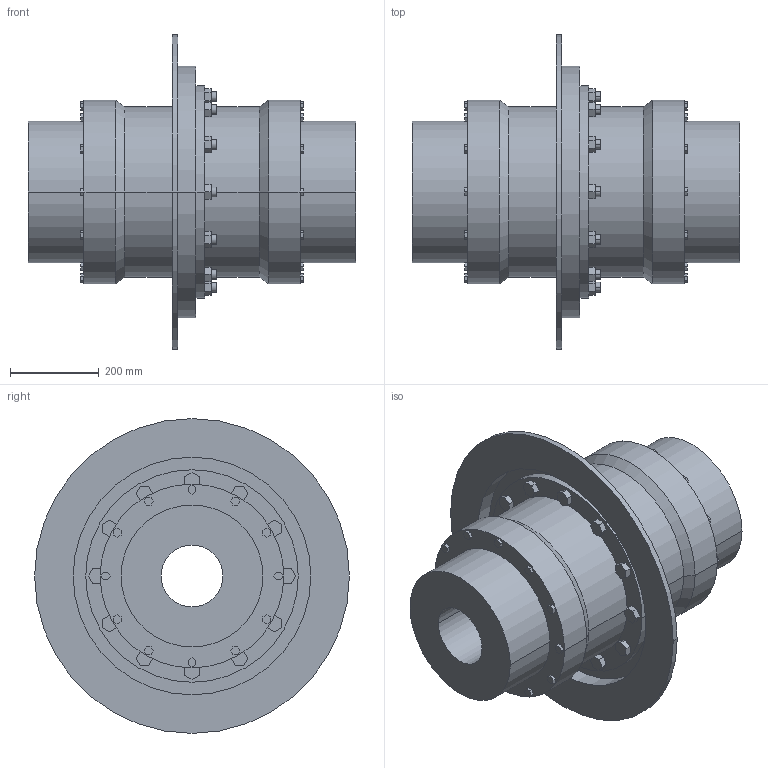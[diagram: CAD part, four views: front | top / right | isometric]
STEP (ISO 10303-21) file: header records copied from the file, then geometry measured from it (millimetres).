
FILE_DESCRIPTION((''),'2;1');
FILE_NAME('A19727900-0_ASM','2019-05-23T',('AB_Roschiwal'),('RENK AG'),'PRO/ENGINEER BY PARAMETRIC TECHNOLOGY CORPORATION, 2015440','PRO/ENGINEER BY PARAMETRIC TECHNOLOGY CORPORATION, 2015440','');
FILE_SCHEMA(('CONFIG_CONTROL_DESIGN'));
Length unit declared in the file: millimetre
Products named in the file (4): SBKT200_GEHAEUSE; SBKT200_NABE; SBKT200_BREMSSCHEIBE; A19727900-0_ASM
Assembly tree (4 placements, depth 2):
  A19727900-0_ASM
    SBKT200_GEHAEUSE
    SBKT200_NABE  x2
    SBKT200_BREMSSCHEIBE
Bounding box: 740 x 711 x 711 mm (x, y, z)
Volume: 56435816.7 mm3; surface area: 3423960.8 mm2
Topology: 4 solids, 4 shells, 470 faces, 1156 edges, 768 vertices
Faces by surface type: plane 370, cylinder 96, cone 4
Entity records: 13604 total; most frequent: CARTESIAN_POINT 2350, ORIENTED_EDGE 2264, DIRECTION 2240, EDGE_CURVE 1132, VECTOR 956, LINE 956, VERTEX_POINT 752, AXIS2_PLACEMENT_3D 642
